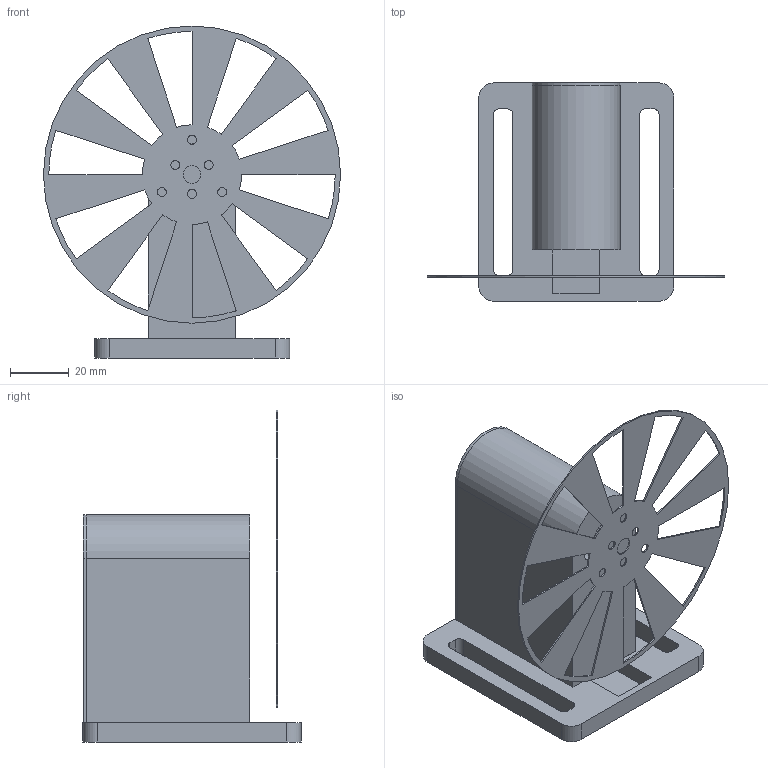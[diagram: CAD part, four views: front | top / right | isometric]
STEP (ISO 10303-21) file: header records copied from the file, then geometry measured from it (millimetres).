
FILE_DESCRIPTION(/* description */ (''),/* implementation_level */ '2;1');
FILE_NAME(/* name */ '斩波座 - 副本.stp',/* time_stamp */ '2023-11-20T11:14:22+08:00',/* author */ (''),/* organization */ (''),/* preprocessor_version */ 'ST-DEVELOPER v16',/* originating_system */ 'SIEMENS PLM Software NX 10.0',/* authorisation */ '');
FILE_SCHEMA (('AUTOMOTIVE_DESIGN { 1 0 10303 214 3 1 1 1 }'));
Length unit declared in the file: millimetre
Products named in the file (3): 10槽叶片; 底座; 斩波座 - 副本
Assembly tree (2 placements, depth 2):
  斩波座 - 副本
    底座
    10槽叶片
Bounding box: 101.6 x 74.6 x 113.5 mm (x, y, z)
Volume: 67502 mm3; surface area: 51077.9 mm2
Topology: 4 solids, 4 shells, 180 faces, 472 edges, 316 vertices
Faces by surface type: cylinder 92, plane 88
Full cylindrical faces by diameter (mm): 2 x12, 3.1 x6, 5 x4, 6 x1, 101.6 x1
Entity records: 5677 total; most frequent: DIRECTION 996, CARTESIAN_POINT 939, ORIENTED_EDGE 888, EDGE_CURVE 444, AXIS2_PLACEMENT_3D 369, VERTEX_POINT 312, EDGE_LOOP 290, LINE 258
